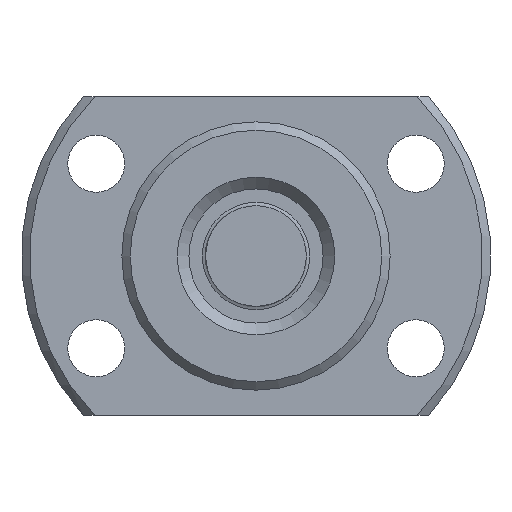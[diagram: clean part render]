
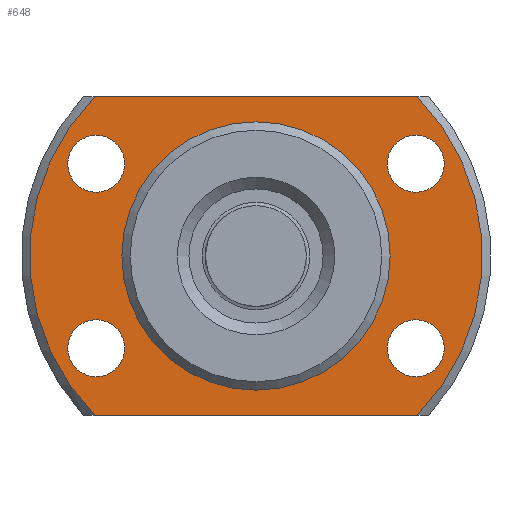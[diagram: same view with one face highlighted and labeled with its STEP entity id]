
A CAD part, left-side view. The second image highlights one B-rep face of the part: STEP entity #648.
In plain terms, the highlighted planar face has unit normal (-1, 0, 0) as drawn and (1, 0, 0) by its records, which use the part's own axes.
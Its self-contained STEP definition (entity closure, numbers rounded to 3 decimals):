
#94=CIRCLE('',#752,1.7);
#95=CIRCLE('',#753,1.7);
#96=CIRCLE('',#754,1.7);
#97=CIRCLE('',#755,1.7);
#98=CIRCLE('',#756,7.75);
#99=CIRCLE('',#757,13.5);
#100=CIRCLE('',#758,13.5);
#186=ORIENTED_EDGE('',*,*,#302,.T.);
#187=ORIENTED_EDGE('',*,*,#303,.T.);
#188=ORIENTED_EDGE('',*,*,#304,.T.);
#189=ORIENTED_EDGE('',*,*,#305,.T.);
#190=ORIENTED_EDGE('',*,*,#306,.F.);
#191=ORIENTED_EDGE('',*,*,#307,.T.);
#192=ORIENTED_EDGE('',*,*,#308,.T.);
#193=ORIENTED_EDGE('',*,*,#309,.T.);
#194=ORIENTED_EDGE('',*,*,#310,.T.);
#302=EDGE_CURVE('',#370,#370,#94,.F.);
#303=EDGE_CURVE('',#371,#371,#95,.F.);
#304=EDGE_CURVE('',#372,#372,#96,.F.);
#305=EDGE_CURVE('',#373,#373,#97,.F.);
#306=EDGE_CURVE('',#374,#374,#98,.T.);
#307=EDGE_CURVE('',#375,#376,#99,.T.);
#308=EDGE_CURVE('',#376,#377,#407,.T.);
#309=EDGE_CURVE('',#377,#378,#100,.T.);
#310=EDGE_CURVE('',#378,#375,#408,.T.);
#370=VERTEX_POINT('',#1112);
#371=VERTEX_POINT('',#1114);
#372=VERTEX_POINT('',#1116);
#373=VERTEX_POINT('',#1118);
#374=VERTEX_POINT('',#1120);
#375=VERTEX_POINT('',#1122);
#376=VERTEX_POINT('',#1123);
#377=VERTEX_POINT('',#1125);
#378=VERTEX_POINT('',#1127);
#407=LINE('',#1124,#425);
#408=LINE('',#1128,#426);
#425=VECTOR('',#931,1000.);
#426=VECTOR('',#934,1000.);
#477=EDGE_LOOP('',(#186));
#478=EDGE_LOOP('',(#187));
#479=EDGE_LOOP('',(#188));
#480=EDGE_LOOP('',(#189));
#481=EDGE_LOOP('',(#190));
#482=EDGE_LOOP('',(#191,#192,#193,#194));
#563=FACE_BOUND('',#477,.T.);
#564=FACE_BOUND('',#478,.T.);
#565=FACE_BOUND('',#479,.T.);
#566=FACE_BOUND('',#480,.T.);
#567=FACE_BOUND('',#481,.T.);
#568=FACE_BOUND('',#482,.T.);
#617=PLANE('',#751);
#648=ADVANCED_FACE('',(#563,#564,#565,#566,#567,#568),#617,.T.);
#751=AXIS2_PLACEMENT_3D('',#1110,#917,#918);
#752=AXIS2_PLACEMENT_3D('',#1111,#919,#920);
#753=AXIS2_PLACEMENT_3D('',#1113,#921,#922);
#754=AXIS2_PLACEMENT_3D('',#1115,#923,#924);
#755=AXIS2_PLACEMENT_3D('',#1117,#925,#926);
#756=AXIS2_PLACEMENT_3D('',#1119,#927,#928);
#757=AXIS2_PLACEMENT_3D('',#1121,#929,#930);
#758=AXIS2_PLACEMENT_3D('',#1126,#932,#933);
#917=DIRECTION('',(1.,0.,0.));
#918=DIRECTION('',(0.,0.,-1.));
#919=DIRECTION('',(1.,0.,0.));
#920=DIRECTION('',(0.,0.,-1.));
#921=DIRECTION('',(1.,0.,0.));
#922=DIRECTION('',(0.,0.,-1.));
#923=DIRECTION('',(1.,0.,0.));
#924=DIRECTION('',(0.,0.,-1.));
#925=DIRECTION('',(1.,0.,0.));
#926=DIRECTION('',(0.,0.,-1.));
#927=DIRECTION('',(1.,0.,0.));
#928=DIRECTION('',(0.,0.,-1.));
#929=DIRECTION('',(1.,0.,0.));
#930=DIRECTION('',(0.,0.,-1.));
#931=DIRECTION('',(0.,-1.,0.));
#932=DIRECTION('',(1.,0.,0.));
#933=DIRECTION('',(0.,0.,-1.));
#934=DIRECTION('',(0.,1.,0.));
#1110=CARTESIAN_POINT('',(6.,7.75,0.));
#1111=CARTESIAN_POINT('',(6.,9.526,5.5));
#1112=CARTESIAN_POINT('',(6.,9.526,3.8));
#1113=CARTESIAN_POINT('',(6.,-9.526,-5.5));
#1114=CARTESIAN_POINT('',(6.,-9.526,-7.2));
#1115=CARTESIAN_POINT('',(6.,-9.526,5.5));
#1116=CARTESIAN_POINT('',(6.,-9.526,3.8));
#1117=CARTESIAN_POINT('',(6.,9.526,-5.5));
#1118=CARTESIAN_POINT('',(6.,9.526,-7.2));
#1119=CARTESIAN_POINT('',(6.,0.,0.));
#1120=CARTESIAN_POINT('',(6.,0.,-7.75));
#1121=CARTESIAN_POINT('',(6.,0.,0.));
#1122=CARTESIAN_POINT('',(6.,9.592,-9.5));
#1123=CARTESIAN_POINT('',(6.,9.592,9.5));
#1124=CARTESIAN_POINT('',(6.,7.75,9.5));
#1125=CARTESIAN_POINT('',(6.,-9.592,9.5));
#1126=CARTESIAN_POINT('',(6.,0.,0.));
#1127=CARTESIAN_POINT('',(6.,-9.592,-9.5));
#1128=CARTESIAN_POINT('',(6.,7.75,-9.5));
